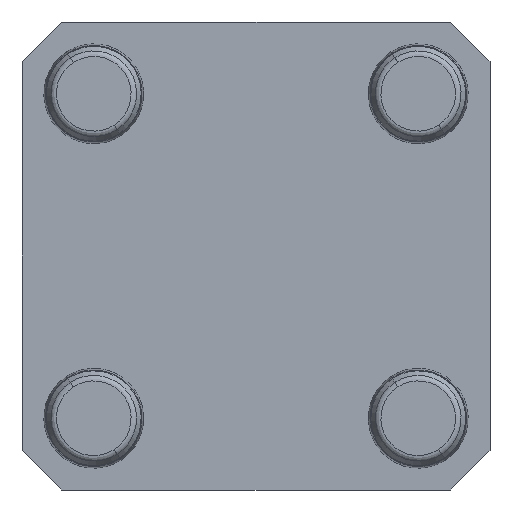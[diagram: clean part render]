
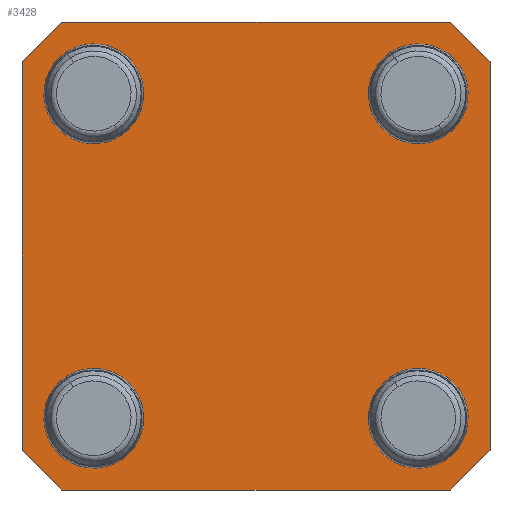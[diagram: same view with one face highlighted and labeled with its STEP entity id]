
A CAD part, front view. The second image highlights one B-rep face of the part: STEP entity #3428.
In plain terms, the highlighted planar face has unit normal (0, -1, 0).
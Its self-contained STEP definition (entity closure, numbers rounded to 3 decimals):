
#58 = VERTEX_POINT ( 'NONE', #2574 ) ;
#60 = DIRECTION ( 'NONE',  ( 0., 0., 1. ) ) ;
#123 = CARTESIAN_POINT ( 'NONE',  ( 26., 0., -26. ) ) ;
#149 = DIRECTION ( 'NONE',  ( 0., 0., -1. ) ) ;
#229 = CARTESIAN_POINT ( 'NONE',  ( 31.15, 0., 37.5 ) ) ;
#244 = CARTESIAN_POINT ( 'NONE',  ( -26., 0., -26. ) ) ;
#255 = CARTESIAN_POINT ( 'NONE',  ( -37.5, 0., -37.5 ) ) ;
#268 = CIRCLE ( 'NONE', #2217, 6.008 ) ;
#434 = ORIENTED_EDGE ( 'NONE', *, *, #2259, .F. ) ;
#476 = EDGE_CURVE ( 'NONE', #6420, #6953, #5286, .T. ) ;
#517 = EDGE_CURVE ( 'NONE', #6207, #5620, #4670, .T. ) ;
#554 = DIRECTION ( 'NONE',  ( 0., -1., 0. ) ) ;
#564 = EDGE_LOOP ( 'NONE', ( #434, #1235, #1106, #5588, #4158, #5539, #5590, #2331 ) ) ;
#649 = AXIS2_PLACEMENT_3D ( 'NONE', #3280, #6577, #6022 ) ;
#796 = ORIENTED_EDGE ( 'NONE', *, *, #476, .F. ) ;
#817 = DIRECTION ( 'NONE',  ( 0., 0., 1. ) ) ;
#921 = EDGE_LOOP ( 'NONE', ( #2802, #3967 ) ) ;
#975 = DIRECTION ( 'NONE',  ( 0., -1., 0. ) ) ;
#1045 = DIRECTION ( 'NONE',  ( 0., 0., -1. ) ) ;
#1060 = CARTESIAN_POINT ( 'NONE',  ( -31.15, 0., -37.5 ) ) ;
#1070 = EDGE_CURVE ( 'NONE', #1693, #2008, #4744, .T. ) ;
#1074 = VERTEX_POINT ( 'NONE', #1060 ) ;
#1085 = CARTESIAN_POINT ( 'NONE',  ( 26., 0., -19.992 ) ) ;
#1100 = CARTESIAN_POINT ( 'NONE',  ( -26., 0., 19.992 ) ) ;
#1106 = ORIENTED_EDGE ( 'NONE', *, *, #7087, .F. ) ;
#1116 = CARTESIAN_POINT ( 'NONE',  ( 26., 0., 26. ) ) ;
#1235 = ORIENTED_EDGE ( 'NONE', *, *, #1070, .T. ) ;
#1263 = EDGE_CURVE ( 'NONE', #4490, #1512, #4746, .T. ) ;
#1357 = CARTESIAN_POINT ( 'NONE',  ( 37.5, 0., 31.15 ) ) ;
#1367 = EDGE_CURVE ( 'NONE', #6692, #7163, #5175, .T. ) ;
#1442 = LINE ( 'NONE', #5348, #2420 ) ;
#1462 = PLANE ( 'NONE',  #6209 ) ;
#1464 = EDGE_CURVE ( 'NONE', #58, #3476, #6399, .T. ) ;
#1512 = VERTEX_POINT ( 'NONE', #3007 ) ;
#1570 = CIRCLE ( 'NONE', #4322, 6.008 ) ;
#1603 = EDGE_LOOP ( 'NONE', ( #5125, #2190 ) ) ;
#1628 = DIRECTION ( 'NONE',  ( 0., -1., 0. ) ) ;
#1632 = LINE ( 'NONE', #255, #6554 ) ;
#1693 = VERTEX_POINT ( 'NONE', #1357 ) ;
#1707 = DIRECTION ( 'NONE',  ( 0., 0., 1. ) ) ;
#1713 = CARTESIAN_POINT ( 'NONE',  ( -37.5, 0., 37.5 ) ) ;
#1735 = DIRECTION ( 'NONE',  ( 0., -1., 0. ) ) ;
#1762 = CARTESIAN_POINT ( 'NONE',  ( 26., 0., 26. ) ) ;
#1932 = DIRECTION ( 'NONE',  ( 0., -1., 0. ) ) ;
#1985 = CARTESIAN_POINT ( 'NONE',  ( 37.5, 0., -31.15 ) ) ;
#1990 = FACE_BOUND ( 'NONE', #1603, .T. ) ;
#2008 = VERTEX_POINT ( 'NONE', #229 ) ;
#2077 = CARTESIAN_POINT ( 'NONE',  ( -26., 0., 32.008 ) ) ;
#2190 = ORIENTED_EDGE ( 'NONE', *, *, #2633, .F. ) ;
#2217 = AXIS2_PLACEMENT_3D ( 'NONE', #244, #6935, #817 ) ;
#2259 = EDGE_CURVE ( 'NONE', #1693, #4204, #2286, .T. ) ;
#2286 = LINE ( 'NONE', #7216, #6730 ) ;
#2299 = DIRECTION ( 'NONE',  ( 0., -1., 0. ) ) ;
#2302 = VECTOR ( 'NONE', #2738, 1000. ) ;
#2321 = VECTOR ( 'NONE', #5663, 1000. ) ;
#2331 = ORIENTED_EDGE ( 'NONE', *, *, #6429, .T. ) ;
#2352 = FACE_OUTER_BOUND ( 'NONE', #564, .T. ) ;
#2394 = DIRECTION ( 'NONE',  ( 0., -1., 0. ) ) ;
#2407 = AXIS2_PLACEMENT_3D ( 'NONE', #5872, #1932, #5293 ) ;
#2420 = VECTOR ( 'NONE', #7084, 1000. ) ;
#2442 = FACE_BOUND ( 'NONE', #4469, .T. ) ;
#2465 = DIRECTION ( 'NONE',  ( -1., 0., 0. ) ) ;
#2519 = CARTESIAN_POINT ( 'NONE',  ( -31.15, 0., 37.5 ) ) ;
#2574 = CARTESIAN_POINT ( 'NONE',  ( 26., 0., 32.008 ) ) ;
#2606 = VERTEX_POINT ( 'NONE', #5856 ) ;
#2633 = EDGE_CURVE ( 'NONE', #5620, #6207, #268, .T. ) ;
#2661 = CARTESIAN_POINT ( 'NONE',  ( -26., 0., -32.008 ) ) ;
#2714 = DIRECTION ( 'NONE',  ( 0., 0., 1. ) ) ;
#2738 = DIRECTION ( 'NONE',  ( -0.707, 0., 0.707 ) ) ;
#2752 = CIRCLE ( 'NONE', #5042, 6.008 ) ;
#2754 = CARTESIAN_POINT ( 'NONE',  ( 26., 0., 19.992 ) ) ;
#2802 = ORIENTED_EDGE ( 'NONE', *, *, #3949, .F. ) ;
#2872 = EDGE_CURVE ( 'NONE', #2606, #1074, #6732, .T. ) ;
#2911 = DIRECTION ( 'NONE',  ( 0., 0., 1. ) ) ;
#3007 = CARTESIAN_POINT ( 'NONE',  ( 26., 0., -32.008 ) ) ;
#3106 = LINE ( 'NONE', #1713, #2321 ) ;
#3279 = CARTESIAN_POINT ( 'NONE',  ( -34.325, 0., -34.325 ) ) ;
#3280 = CARTESIAN_POINT ( 'NONE',  ( -26., 0., 26. ) ) ;
#3303 = DIRECTION ( 'NONE',  ( 0.707, 0., -0.707 ) ) ;
#3309 = EDGE_CURVE ( 'NONE', #6051, #1074, #1632, .T. ) ;
#3417 = AXIS2_PLACEMENT_3D ( 'NONE', #1762, #1735, #2911 ) ;
#3428 = ADVANCED_FACE ( 'NONE', ( #1990, #4971, #6281, #2442, #2352 ), #1462, .T. ) ;
#3476 = VERTEX_POINT ( 'NONE', #2754 ) ;
#3679 = CARTESIAN_POINT ( 'NONE',  ( 31.15, 0., -37.5 ) ) ;
#3702 = AXIS2_PLACEMENT_3D ( 'NONE', #6177, #554, #6734 ) ;
#3719 = EDGE_LOOP ( 'NONE', ( #4029, #4656 ) ) ;
#3815 = DIRECTION ( 'NONE',  ( 0., 0., -1. ) ) ;
#3878 = DIRECTION ( 'NONE',  ( -0.707, 0., -0.707 ) ) ;
#3949 = EDGE_CURVE ( 'NONE', #3476, #58, #2752, .T. ) ;
#3964 = VECTOR ( 'NONE', #2714, 1000. ) ;
#3967 = ORIENTED_EDGE ( 'NONE', *, *, #1464, .F. ) ;
#4029 = ORIENTED_EDGE ( 'NONE', *, *, #5437, .F. ) ;
#4158 = ORIENTED_EDGE ( 'NONE', *, *, #5196, .F. ) ;
#4204 = VERTEX_POINT ( 'NONE', #1985 ) ;
#4322 = AXIS2_PLACEMENT_3D ( 'NONE', #123, #2394, #149 ) ;
#4469 = EDGE_LOOP ( 'NONE', ( #6242, #796 ) ) ;
#4490 = VERTEX_POINT ( 'NONE', #1085 ) ;
#4525 = CARTESIAN_POINT ( 'NONE',  ( -37.5, 0., 31.15 ) ) ;
#4656 = ORIENTED_EDGE ( 'NONE', *, *, #1263, .F. ) ;
#4670 = CIRCLE ( 'NONE', #7005, 6.008 ) ;
#4744 = LINE ( 'NONE', #5516, #2302 ) ;
#4746 = CIRCLE ( 'NONE', #3702, 6.008 ) ;
#4971 = FACE_BOUND ( 'NONE', #3719, .T. ) ;
#5042 = AXIS2_PLACEMENT_3D ( 'NONE', #1116, #2299, #60 ) ;
#5102 = CARTESIAN_POINT ( 'NONE',  ( -26., 0., -26. ) ) ;
#5125 = ORIENTED_EDGE ( 'NONE', *, *, #517, .F. ) ;
#5175 = LINE ( 'NONE', #6632, #6491 ) ;
#5196 = EDGE_CURVE ( 'NONE', #2606, #7163, #6228, .T. ) ;
#5286 = CIRCLE ( 'NONE', #649, 6.008 ) ;
#5293 = DIRECTION ( 'NONE',  ( 0., 0., -1. ) ) ;
#5348 = CARTESIAN_POINT ( 'NONE',  ( 34.325, 0., -34.325 ) ) ;
#5437 = EDGE_CURVE ( 'NONE', #1512, #4490, #1570, .T. ) ;
#5516 = CARTESIAN_POINT ( 'NONE',  ( 34.325, 0., 34.325 ) ) ;
#5539 = ORIENTED_EDGE ( 'NONE', *, *, #2872, .T. ) ;
#5588 = ORIENTED_EDGE ( 'NONE', *, *, #1367, .T. ) ;
#5590 = ORIENTED_EDGE ( 'NONE', *, *, #3309, .F. ) ;
#5620 = VERTEX_POINT ( 'NONE', #6464 ) ;
#5663 = DIRECTION ( 'NONE',  ( 1., 0., 0. ) ) ;
#5856 = CARTESIAN_POINT ( 'NONE',  ( -37.5, 0., -31.15 ) ) ;
#5872 = CARTESIAN_POINT ( 'NONE',  ( -26., 0., 26. ) ) ;
#6022 = DIRECTION ( 'NONE',  ( 0., 0., -1. ) ) ;
#6051 = VERTEX_POINT ( 'NONE', #3679 ) ;
#6060 = EDGE_CURVE ( 'NONE', #6953, #6420, #7112, .T. ) ;
#6067 = CARTESIAN_POINT ( 'NONE',  ( -37.5, 0., 37.5 ) ) ;
#6177 = CARTESIAN_POINT ( 'NONE',  ( 26., 0., -26. ) ) ;
#6207 = VERTEX_POINT ( 'NONE', #2661 ) ;
#6209 = AXIS2_PLACEMENT_3D ( 'NONE', #6489, #975, #3815 ) ;
#6228 = LINE ( 'NONE', #6067, #3964 ) ;
#6242 = ORIENTED_EDGE ( 'NONE', *, *, #6060, .F. ) ;
#6281 = FACE_BOUND ( 'NONE', #921, .T. ) ;
#6399 = CIRCLE ( 'NONE', #3417, 6.008 ) ;
#6420 = VERTEX_POINT ( 'NONE', #2077 ) ;
#6429 = EDGE_CURVE ( 'NONE', #6051, #4204, #1442, .T. ) ;
#6464 = CARTESIAN_POINT ( 'NONE',  ( -26., 0., -19.992 ) ) ;
#6467 = VECTOR ( 'NONE', #3303, 1000. ) ;
#6489 = CARTESIAN_POINT ( 'NONE',  ( 0., 0., 0. ) ) ;
#6491 = VECTOR ( 'NONE', #3878, 1000. ) ;
#6554 = VECTOR ( 'NONE', #2465, 1000. ) ;
#6577 = DIRECTION ( 'NONE',  ( 0., -1., 0. ) ) ;
#6632 = CARTESIAN_POINT ( 'NONE',  ( -34.325, 0., 34.325 ) ) ;
#6692 = VERTEX_POINT ( 'NONE', #2519 ) ;
#6730 = VECTOR ( 'NONE', #1045, 1000. ) ;
#6732 = LINE ( 'NONE', #3279, #6467 ) ;
#6734 = DIRECTION ( 'NONE',  ( 0., 0., -1. ) ) ;
#6935 = DIRECTION ( 'NONE',  ( 0., -1., 0. ) ) ;
#6953 = VERTEX_POINT ( 'NONE', #1100 ) ;
#7005 = AXIS2_PLACEMENT_3D ( 'NONE', #5102, #1628, #1707 ) ;
#7084 = DIRECTION ( 'NONE',  ( 0.707, 0., 0.707 ) ) ;
#7087 = EDGE_CURVE ( 'NONE', #6692, #2008, #3106, .T. ) ;
#7112 = CIRCLE ( 'NONE', #2407, 6.008 ) ;
#7163 = VERTEX_POINT ( 'NONE', #4525 ) ;
#7216 = CARTESIAN_POINT ( 'NONE',  ( 37.5, 0., 37.5 ) ) ;
